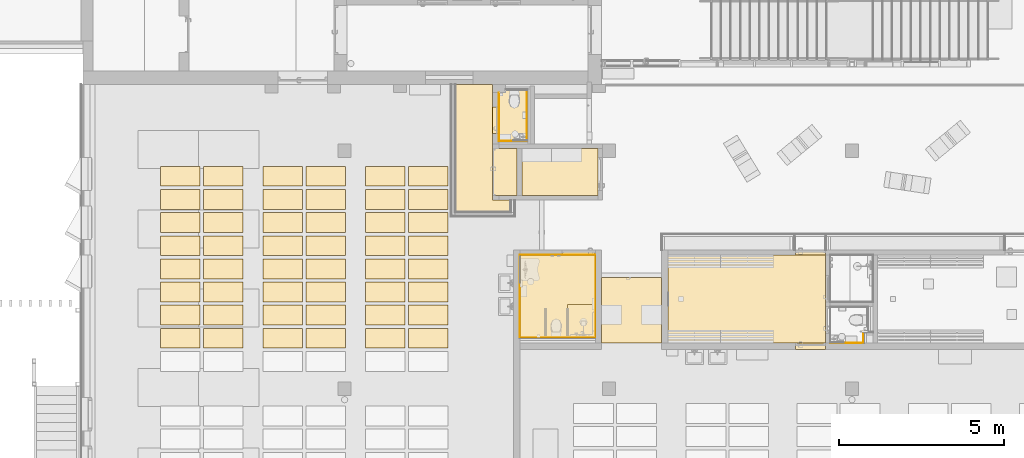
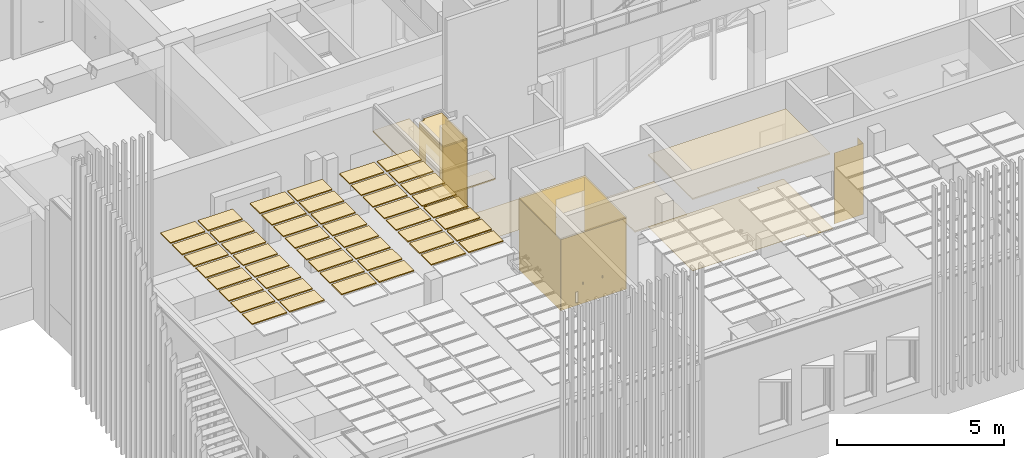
# One storey, part 233 of 301: 68 coverings, 2 openings.
"""IFC2X3 building model written with IfcOpenShell, lengths in millimetres."""

import ifcopenshell
import ifcopenshell.guid

model = None  # the IFC model being written
_history = None  # IfcOwnerHistory: only IFC2X3 demands one
_inside = {}  # id of a spatial element -> (the spatial element, [elements in it])
_under = {}  # id of a project, library or spatial element -> (it, [spatial elements below it])
_declared = {}  # id of a project -> (the project, [libraries it declares])
_typed = {}  # id of a type object -> (the type object, [elements of that type])
_made_of = {}  # id of a material, layer set ... -> (it, [elements and type objects made of it])


def new_model(schema):
    """Start an empty IFC model of exactly this schema.

    Asked for "IFC4X3", IfcOpenShell would pick the latest addendum, in which some entities
    have other attributes; the version numbers below select the first issue.
    IFC2X3 requires an IfcOwnerHistory on every rooted entity: one is made here for all.
    """
    global model, _history
    if schema == "IFC4X3":
        model = ifcopenshell.file(schema_version=(4, 3, 0, 0))
    else:
        model = ifcopenshell.file(schema=schema)
    _inside.clear()
    _under.clear()
    _declared.clear()
    _typed.clear()
    _made_of.clear()
    _history = None
    if model.schema == "IFC2X3":
        org = make("IfcOrganization", Name="unknown")
        user = make(
            "IfcPersonAndOrganization",
            ThePerson=make("IfcPerson", FamilyName="unknown"),
            TheOrganization=org,
        )
        app = make(
            "IfcApplication",
            ApplicationDeveloper=org,
            Version="unknown",
            ApplicationFullName="unknown",
            ApplicationIdentifier="unknown",
        )
        _history = make(
            "IfcOwnerHistory",
            OwningUser=user,
            OwningApplication=app,
            ChangeAction="ADDED",
            CreationDate=0,
        )
    return model


def make(cls, **values):
    """One entity of the class cls with the attributes given. An attribute that is None is left unset."""
    return model.create_entity(
        cls, **{name: value for name, value in values.items() if value is not None}
    )


def entity(cls, *values):
    """Any entity or typed value of the class cls, its attributes in the order of the schema. None: left unset."""
    e = model.create_entity(cls)
    for i, value in enumerate(values):
        if value is not None:
            e[i] = value
    return e


def rooted(cls, **values):
    """An entity with a GlobalId (a new one), such as an element, a storey or a relation."""
    return make(cls, GlobalId=ifcopenshell.guid.new(), OwnerHistory=_history, **values)


def si_unit(unit_type, name, prefix=None):
    """IfcSIUnit, for example si_unit("LENGTHUNIT", "METRE", prefix="MILLI")."""
    return make("IfcSIUnit", UnitType=unit_type, Prefix=prefix, Name=name)


def converted_unit(unit_type, name, factor, base, dimensions=None, offset=None):
    """IfcConversionBasedUnit, such as the inch: factor (a typed value) times the base unit."""
    return make(
        "IfcConversionBasedUnit"
        if offset is None
        else "IfcConversionBasedUnitWithOffset",
        ConversionOffset=offset,
        Dimensions=None
        if dimensions is None
        else entity("IfcDimensionalExponents", *dimensions),
        UnitType=unit_type,
        Name=name,
        ConversionFactor=make(
            "IfcMeasureWithUnit", ValueComponent=factor, UnitComponent=base
        ),
    )


def derived_unit(unit_type, elements):
    """IfcDerivedUnit: a product of units, each with its exponent."""
    return make(
        "IfcDerivedUnit",
        Elements=[
            make("IfcDerivedUnitElement", Unit=unit, Exponent=power)
            for unit, power in elements
        ],
        UnitType=unit_type,
    )


def money_unit(currency):
    """IfcMonetaryUnit."""
    return make("IfcMonetaryUnit", Currency=currency)


def assignment(units):
    """IfcUnitAssignment: the units of a project."""
    return None if units is None else make("IfcUnitAssignment", Units=units)


def point(xyz):
    """IfcCartesianPoint."""
    return None if xyz is None else make("IfcCartesianPoint", Coordinates=xyz)


def direction(xyz):
    """IfcDirection."""
    return None if xyz is None else make("IfcDirection", DirectionRatios=xyz)


def frame(location, z_axis=None, x_axis=None):
    """IfcAxis2Placement3D, a coordinate frame: its origin and axes. An axis left out is left unset."""
    return make(
        "IfcAxis2Placement3D",
        Location=point(location),
        Axis=direction(z_axis),
        RefDirection=direction(x_axis),
    )


def origin_with_axes():
    """The frame at (0, 0, 0) with the z axis (0, 0, 1) and the x axis (1, 0, 0) written out."""
    return frame((0.0, 0.0, 0.0), z_axis=(0.0, 0.0, 1.0), x_axis=(1.0, 0.0, 0.0))


def place(relative_to, where):
    """IfcLocalPlacement: puts the frame where relative to a parent placement (None: the world)."""
    return make(
        "IfcLocalPlacement", PlacementRelTo=relative_to, RelativePlacement=where
    )


def context(
    kind, dimensions, precision=None, world=None, true_north=None, identifier=None
):
    """IfcGeometricRepresentationContext, for example the 3D "Model" context."""
    return make(
        "IfcGeometricRepresentationContext",
        ContextIdentifier=identifier,
        ContextType=kind,
        CoordinateSpaceDimension=dimensions,
        Precision=precision,
        WorldCoordinateSystem=world,
        TrueNorth=true_north,
    )


def subcontext(parent, identifier, kind, view, scale=None):
    """IfcGeometricRepresentationSubContext, for example "Body" below "Model"."""
    return make(
        "IfcGeometricRepresentationSubContext",
        ContextIdentifier=identifier,
        ContextType=kind,
        ParentContext=parent,
        TargetScale=scale,
        TargetView=view,
    )


def project(units=None, contexts=None):
    """IfcProject with its units and contexts."""
    return rooted(
        "IfcProject",
        Name="project",
        RepresentationContexts=contexts,
        UnitsInContext=assignment(units),
    )


def spatial(cls, under=None, at=None, **own):
    """A site, building, storey or space (cls), placed at a placement, below another one or the project."""
    s = rooted(cls, ObjectPlacement=at, **own)
    if under is not None:
        _under.setdefault(under.id(), (under, []))[1].append(s)
    return s


def faces_of(points, faces, orient=None, outer=None):
    """IfcFace entities. A face is a list of loops; a loop is a list of indices into points, from 0.

    orient and outer hold one flag for each loop. By default every Orientation is true, the
    first loop of a face is its IfcFaceOuterBound and the others are IfcFaceBound.
    """
    made = []
    for i, loops in enumerate(faces):
        bounds = []
        for j, loop in enumerate(loops):
            is_outer = j == 0 if outer is None else outer[i][j]
            bounds.append(
                make(
                    "IfcFaceOuterBound" if is_outer else "IfcFaceBound",
                    Bound=make("IfcPolyLoop", Polygon=[points[k] for k in loop]),
                    Orientation=True if orient is None else orient[i][j],
                )
            )
        made.append(make("IfcFace", Bounds=bounds))
    return made


def faceted_brep(points, faces, orient=None, outer=None, voids=None):
    """IfcFacetedBrep: a solid bounded by flat faces; with voids (closed shells), ...WithVoids."""
    shared = [point(p) for p in points]
    hull = make("IfcClosedShell", CfsFaces=faces_of(shared, faces, orient, outer))
    if voids is None:
        return make("IfcFacetedBrep", Outer=hull)
    return make(
        "IfcFacetedBrepWithVoids",
        Outer=hull,
        Voids=[
            make(cls, CfsFaces=faces_of(shared, fs, o, b)) for cls, fs, o, b in voids
        ],
    )


def shape(context_of_items, identifier, shape_type, items):
    """IfcShapeRepresentation: the items that make up one representation, for example the "Body"."""
    return make(
        "IfcShapeRepresentation",
        ContextOfItems=context_of_items,
        RepresentationIdentifier=identifier,
        RepresentationType=shape_type,
        Items=items,
    )


def material(Name=None, Category=None):
    """IfcMaterial."""
    return make("IfcMaterial", Name=Name, Category=Category)


def made_of(thing, what):
    """Note that an element or type object is made of a material, layer set ...; save() writes the relation."""
    if what is not None:
        _made_of.setdefault(what.id(), (what, []))[1].append(thing)
    return thing


def type_object(cls, material=None, **own):
    """A type object (cls), such as IfcWallType, which elements share."""
    return made_of(rooted(cls, **own), material)


def element(
    cls,
    number,
    at=None,
    inside=None,
    cuts=None,
    type_object=None,
    material=None,
    context=None,
    identifier="Body",
    shape_type=None,
    held_by="IfcProductDefinitionShape",
    body=None,
    shapes=None,
    **own,
):
    """One element of the class cls, such as IfcWall. Its Tag is "e" and its number.

    at: its placement. inside: the storey or other place that contains it. cuts: it is an
    opening in that element (IfcRelVoidsElement). A single representation is given by context,
    identifier, shape_type and body (its items); several are given by shapes. held_by: the class
    of the entity that holds the representations. save() writes the other relations.
    """
    e = rooted(cls, Tag="e%d" % number, ObjectPlacement=at, **own)
    if body is not None:
        shapes = [shape(context, identifier, shape_type, body)]
    if shapes is not None:
        e.Representation = make(held_by, Representations=shapes)
    if inside is not None:
        _inside.setdefault(inside.id(), (inside, []))[1].append(e)
    if cuts is not None:
        rooted(
            "IfcRelVoidsElement", RelatingBuildingElement=cuts, RelatedOpeningElement=e
        )
    if type_object is not None:
        _typed.setdefault(type_object.id(), (type_object, []))[1].append(e)
    return made_of(e, material)


def aggregate(whole, parts):
    """IfcRelAggregates: a whole, such as a stair, and the parts it consists of."""
    return rooted("IfcRelAggregates", RelatingObject=whole, RelatedObjects=parts)


def save(model, path):
    """Write the relations noted so far, then the file.

    IfcRelAggregates (storeys below a building ...), IfcRelContainedInSpatialStructure (elements
    in a storey), IfcRelDefinesByType, IfcRelAssociatesMaterial and IfcRelDeclares: one each for
    every whole, place, type object, material and project.
    """
    for whole, parts in _under.values():
        aggregate(whole, parts)
    for where, things in _inside.values():
        rooted(
            "IfcRelContainedInSpatialStructure",
            RelatedElements=things,
            RelatingStructure=where,
        )
    for kind, things in _typed.values():
        rooted("IfcRelDefinesByType", RelatedObjects=things, RelatingType=kind)
    for what, things in _made_of.values():
        rooted("IfcRelAssociatesMaterial", RelatedObjects=things, RelatingMaterial=what)
    for by, libraries in _declared.values():
        rooted("IfcRelDeclares", RelatingContext=by, RelatedDefinitions=libraries)
    model.write(path)


model = new_model("IFC2X3")

# Units and contexts
model_context = context("Model", 3, precision=0.01, world=origin_with_axes(), true_north=direction((0.0, 1.0)))
body_context = subcontext(model_context, "Body", "Model", "MODEL_VIEW")
ifc_project = project(units=[si_unit("LENGTHUNIT", "METRE", prefix="MILLI"), si_unit("AREAUNIT", "SQUARE_METRE"), si_unit("VOLUMEUNIT", "CUBIC_METRE"), converted_unit("PLANEANGLEUNIT", "DEGREE", entity("IfcPlaneAngleMeasure", 0.0174532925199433), si_unit("PLANEANGLEUNIT", "RADIAN"), dimensions=[0, 0, 0, 0, 0, 0, 0]), money_unit("EUR"), converted_unit("TIMEUNIT", "Year", entity("IfcTimeMeasure", 31557600.0), si_unit("TIMEUNIT", "SECOND"), dimensions=[0, 0, 1, 0, 0, 0, 0]), si_unit("MASSUNIT", "GRAM", prefix="KILO"), si_unit("THERMODYNAMICTEMPERATUREUNIT", "DEGREE_CELSIUS"), si_unit("LUMINOUSINTENSITYUNIT", "LUMEN"), si_unit("ENERGYUNIT", "JOULE", prefix="MEGA"), derived_unit("THERMALCONDUCTANCEUNIT", [(si_unit("POWERUNIT", "WATT"), 1), (si_unit("LENGTHUNIT", "METRE"), -1), (si_unit("THERMODYNAMICTEMPERATUREUNIT", "KELVIN"), -1)]), derived_unit("SPECIFICHEATCAPACITYUNIT", [(si_unit("ENERGYUNIT", "JOULE"), 1), (si_unit("MASSUNIT", "GRAM", prefix="KILO"), -1), (si_unit("THERMODYNAMICTEMPERATUREUNIT", "KELVIN"), -1)]), derived_unit("MASSDENSITYUNIT", [(si_unit("MASSUNIT", "GRAM", prefix="KILO"), 1), (si_unit("VOLUMEUNIT", "CUBIC_METRE"), -1)])], contexts=[model_context])

# Site, building, storey
site_placement = place(None, frame((0.0, 0.0, 8650.0), z_axis=(0.0, 0.0, 1.0), x_axis=(1.0, 0.0, 0.0)))
site = spatial("IfcSite", under=ifc_project, at=site_placement, Name="43301:001:0844", CompositionType="ELEMENT")
building_placement = place(site_placement, origin_with_axes())
building = spatial("IfcBuilding", under=site, at=building_placement, Name="Kuressaare Ametikooli tuulikute mehaanikute õppekorpus", CompositionType="ELEMENT")
storey_placement = place(building_placement, origin_with_axes())
storey = spatial("IfcBuildingStorey", under=building, at=storey_placement, Name="1.korrus", CompositionType="ELEMENT", Elevation=0.0)

# Coverings
ifc_material_1 = material(Name="GENEERILINE - KONSTRUKTRIOON")
covering_type_1 = type_object("IfcCoveringType", Name="GENEERILINE - KONSTRUKTRIOON 50", PredefinedType="CEILING")
covering_1_placement = place(storey_placement, frame((105645.5122789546, 17954.7983766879, 2600.0), z_axis=(0.0, 0.0, 1.0), x_axis=(1.0, 0.0, 0.0)))
element("IfcCovering", 1, at=covering_1_placement, inside=storey, type_object=covering_type_1, material=ifc_material_1, Name="RL2", PredefinedType="CEILING", context=body_context, shape_type="Brep", body=[
    faceted_brep([(0.0, 0.0, 49.99999999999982), (0.0, 0.0, 0.0), (4769.999902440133, 0.0, 0.0), (4769.999902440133, 0.0, 49.99999999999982), (0.0, 2670.036032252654, 49.99999999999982), (0.0, 2670.036032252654, 0.0), (4769.999902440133, 2670.036032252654, 0.0), (4769.999902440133, 2670.036032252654, 49.99999999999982)], [[[0, 1, 2, 3]], [[4, 5, 1, 0]], [[2, 1, 5, 6]], [[3, 2, 6, 7]], [[4, 0, 3, 7]], [[7, 6, 5, 4]]]),
])
covering_2_placement = place(storey_placement, frame((101167.9522847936, 18124.79393465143, 2600.0), z_axis=(0.0, 0.0, 1.0), x_axis=(1.0, 0.0, 0.0)))
element("IfcCovering", 2, at=covering_2_placement, inside=storey, type_object=covering_type_1, material=ifc_material_1, Name="RL2", PredefinedType="CEILING", context=body_context, shape_type="Brep", body=[
    faceted_brep([(0.0, 0.0, 49.99999999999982), (0.0, 0.0, 0.0), (2287.559318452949, 0.0, 0.0), (2287.559318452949, 0.0, 49.99999999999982), (0.0, 2499.999743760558, 49.99999999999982), (0.0, 2499.999743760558, 0.0), (2287.559318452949, 2499.999743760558, 0.0), (2287.559318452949, 2499.999743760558, 49.99999999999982)], [[[0, 1, 2, 3]], [[4, 5, 1, 0]], [[2, 1, 5, 6]], [[3, 2, 6, 7]], [[4, 0, 3, 7]], [[7, 6, 5, 4]]]),
])
covering_3_placement = place(storey_placement, frame((100535.6053400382, 24070.48392248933, 2600.0), z_axis=(0.0, 0.0, 1.0), x_axis=(1.0, 0.0, 0.0)))
element("IfcCovering", 3, at=covering_3_placement, inside=storey, type_object=covering_type_1, material=ifc_material_1, Name="RL2", PredefinedType="CEILING", context=body_context, shape_type="Brep", body=[
    faceted_brep([(0.0, 0.0, 49.99999999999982), (0.0, 0.0, 0.0), (848.0493513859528, 0.0, 0.0), (848.0493513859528, 0.0, 49.99999999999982), (0.0, 1462.583499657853, 49.99999999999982), (0.0, 1462.583499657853, 0.0), (200.7111416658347, 1462.583499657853, 0.0), (200.7111416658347, 1537.655486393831, 0.0), (848.0493513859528, 1534.853385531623, 0.0), (848.0493513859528, 1534.853385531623, 49.99999999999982), (200.7111416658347, 1537.655486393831, 49.99999999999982), (200.7111416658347, 1462.583499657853, 49.99999999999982)], [[[0, 1, 2, 3]], [[4, 5, 1, 0]], [[2, 1, 5, 6, 7, 8]], [[3, 2, 8, 9]], [[4, 0, 3, 9, 10, 11]], [[11, 6, 5, 4]], [[10, 7, 6, 11]], [[9, 8, 7, 10]]]),
])
covering_4_placement = place(storey_placement, frame((103645.5118456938, 17954.79795469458, 2100.0), z_axis=(0.0, 0.0, 1.0), x_axis=(1.0, 0.0, 0.0)))
element("IfcCovering", 4, at=covering_4_placement, inside=storey, type_object=covering_type_1, material=ifc_material_1, Name="RL2", PredefinedType="CEILING", context=body_context, shape_type="Brep", body=[
    faceted_brep([(0.0, 0.0, 49.99999999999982), (0.0, 0.0, 0.0), (1810.000454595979, 0.0, 0.0), (1810.000454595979, 0.0, 49.99999999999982), (0.0, 1979.671638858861, 49.99999999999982), (0.0, 1979.671638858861, 0.0), (1810.000454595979, 1979.671638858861, 0.0), (1810.000454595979, 1979.671638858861, 49.99999999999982)], [[[0, 1, 2, 3]], [[4, 5, 1, 0]], [[2, 1, 5, 6]], [[3, 2, 6, 7]], [[4, 0, 3, 7]], [[7, 6, 5, 4]]]),
])
covering_5_placement = place(storey_placement, frame((99086.0631579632, 21782.13829165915, 2640.0), z_axis=(0.0, 0.0, 1.0), x_axis=(1.0, 0.0, 0.0)))
element("IfcCovering", 5, at=covering_5_placement, inside=storey, type_object=covering_type_1, material=ifc_material_1, Name="RL2", PredefinedType="CEILING", context=body_context, shape_type="Brep", body=[
    faceted_brep([(0.0, 0.0, 49.99999999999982), (0.0, 0.0, 0.0), (1946.539572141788, 0.0, 0.0), (1946.539572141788, 0.0, 49.99999999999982), (0.0, 4000.779378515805, 49.99999999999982), (0.0, 4000.779378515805, 0.0), (1258.723737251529, 4000.956785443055, 0.0), (1259.218152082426, 493.0233954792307, 0.0), (1946.539572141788, 492.9445155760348, 0.0), (1946.539572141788, 492.9445155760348, 49.99999999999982), (1259.218152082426, 493.0233954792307, 49.99999999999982), (1258.723737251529, 4000.956785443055, 49.99999999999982)], [[[0, 1, 2, 3]], [[4, 5, 1, 0]], [[2, 1, 5, 6, 7, 8]], [[3, 2, 8, 9]], [[4, 0, 3, 9, 10, 11]], [[11, 6, 5, 4]], [[10, 7, 6, 11]], [[9, 8, 7, 10]]]),
])
covering_type_2 = type_object("IfcCoveringType", Name="GENEERILINE - KONSTRUKTRIOON 40", PredefinedType="CEILING")
for number, where, z_axis, x_axis, name in (
    (6, (95899.99999999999, 19799.04687498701, 3530.0), (0.0, 0.0, 1.0), (1.0, 0.0, 0.0), "RL3"),
    (7, (95899.99999999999, 20499.04687498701, 3530.0), (0.0, 0.0, 1.0), (1.0, 0.0, 0.0), "RL3"),
    (8, (95899.99999999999, 19099.046874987, 3530.0), (0.0, 0.0, 1.0), (1.0, 0.0, 0.0), "RL3"),
    (9, (95899.99999999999, 21199.04687498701, 3530.0), (0.0, 0.0, 1.0), (1.0, 0.0, 0.0), "RL3"),
    (10, (94600.0, 20499.04687498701, 3530.0), (0.0, 0.0, 1.0), (1.0, 0.0, 0.0), "RL3"),
    (11, (94600.0, 19799.04687498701, 3530.0), (0.0, 0.0, 1.0), (1.0, 0.0, 0.0), "RL3"),
    (12, (94600.0, 19099.046874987, 3530.0), (0.0, 0.0, 1.0), (1.0, 0.0, 0.0), "RL3"),
    (13, (94600.0, 21199.04687498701, 3530.0), (0.0, 0.0, 1.0), (1.0, 0.0, 0.0), "RL3"),
    (14, (95899.99999999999, 18399.046874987, 3530.0), (0.0, 0.0, 1.0), (1.0, 0.0, 0.0), "RL3"),
    (15, (94600.0, 18399.046874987, 3530.0), (0.0, 0.0, 1.0), (1.0, 0.0, 0.0), "RL3"),
    (16, (95899.99999999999, 22599.04687498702, 3530.0), (0.0, 0.0, 1.0), (1.0, 0.0, 0.0), "RL3"),
    (17, (94600.0, 21899.04687498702, 3530.0), (0.0, 0.0, 1.0), (1.0, 0.0, 0.0), "RL3"),
    (18, (94600.0, 22599.04687498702, 3530.0), (0.0, 0.0, 1.0), (1.0, 0.0, 0.0), "RL3"),
    (19, (95899.99999999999, 23299.04687498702, 3530.0), (0.0, 0.0, 1.0), (1.0, 0.0, 0.0), "RL3"),
    (20, (95899.99999999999, 21899.04687498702, 3530.0), (0.0, 0.0, 1.0), (1.0, 0.0, 0.0), "RL3"),
    (21, (94600.0, 23299.04687498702, 3530.0), (0.0, 0.0, 1.0), (1.0, 0.0, 0.0), "RL3"),
    (22, (92799.99999999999, 20499.04687498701, 3530.0), (0.0, 0.0, 1.0), (1.0, 0.0, 0.0), "RL3"),
    (23, (92799.99999999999, 19799.04687498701, 3530.0), (0.0, 0.0, 1.0), (1.0, 0.0, 0.0), "RL3"),
    (24, (92799.99999999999, 19099.046874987, 3530.0), (0.0, 0.0, 1.0), (1.0, 0.0, 0.0), "RL3"),
    (25, (92799.99999999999, 21199.04687498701, 3530.0), (0.0, 0.0, 1.0), (1.0, 0.0, 0.0), "RL3"),
    (26, (91499.99999999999, 20499.04687498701, 3530.0), (0.0, 0.0, 1.0), (1.0, 0.0, 0.0), "RL3"),
    (27, (91499.99999999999, 19799.04687498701, 3530.0), (0.0, 0.0, 1.0), (1.0, 0.0, 0.0), "RL3"),
    (28, (91499.99999999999, 21199.04687498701, 3530.0), (0.0, 0.0, 1.0), (1.0, 0.0, 0.0), "RL3"),
    (29, (92799.99999999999, 18399.046874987, 3530.0), (0.0, 0.0, 1.0), (1.0, 0.0, 0.0), "RL3"),
    (30, (91499.99999999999, 18399.046874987, 3530.0), (0.0, 0.0, 1.0), (1.0, 0.0, 0.0), "RL3"),
    (31, (92799.99999999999, 21899.04687498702, 3530.0), (0.0, 0.0, 1.0), (1.0, 0.0, 0.0), "RL3"),
    (32, (92799.99999999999, 22599.04687498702, 3530.0), (0.0, 0.0, 1.0), (1.0, 0.0, 0.0), "RL3"),
    (33, (91499.99999999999, 21899.04687498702, 3530.0), (0.0, 0.0, 1.0), (1.0, 0.0, 0.0), "RL3"),
    (34, (91499.99999999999, 22599.04687498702, 3530.0), (0.0, 0.0, 1.0), (1.0, 0.0, 0.0), "RL3"),
    (35, (92799.99999999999, 23299.04687498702, 3530.0), (0.0, 0.0, 1.0), (1.0, 0.0, 0.0), "RL3"),
    (36, (91499.99999999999, 23299.04687498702, 3530.0), (0.0, 0.0, 1.0), (1.0, 0.0, 0.0), "RL3"),
    (37, (91499.99999999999, 19099.046874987, 3530.0), (0.0, 0.0, 1.0), (1.0, 0.0, 0.0), "RL3"),
    (38, (98999.99999999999, 20499.04687498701, 3530.0), (0.0, 0.0, 1.0), (1.0, 0.0, 0.0), "RL3"),
    (39, (98999.99999999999, 19799.04687498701, 3530.0), (0.0, 0.0, 1.0), (1.0, 0.0, 0.0), "RL3"),
    (40, (98999.99999999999, 19099.046874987, 3530.0), (0.0, 0.0, 1.0), (1.0, 0.0, 0.0), "RL3"),
    (41, (98999.99999999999, 21199.04687498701, 3530.0), (0.0, 0.0, 1.0), (1.0, 0.0, 0.0), "RL3"),
    (42, (97699.99999999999, 20499.04687498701, 3530.0), (0.0, 0.0, 1.0), (1.0, 0.0, 0.0), "RL3"),
    (43, (97699.99999999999, 19799.04687498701, 3530.0), (0.0, 0.0, 1.0), (1.0, 0.0, 0.0), "RL3"),
    (44, (97699.99999999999, 19099.046874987, 3530.0), (0.0, 0.0, 1.0), (1.0, 0.0, 0.0), "RL3"),
    (45, (97699.99999999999, 21199.04687498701, 3530.0), (0.0, 0.0, 1.0), (1.0, 0.0, 0.0), "RL3"),
    (46, (98999.99999999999, 18399.046874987, 3530.0), (0.0, 0.0, 1.0), (1.0, 0.0, 0.0), "RL3"),
    (47, (97699.99999999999, 18399.046874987, 3530.0), (0.0, 0.0, 1.0), (1.0, 0.0, 0.0), "RL3"),
    (48, (98999.99999999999, 21899.04687498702, 3530.0), (0.0, 0.0, 1.0), (1.0, 0.0, 0.0), "RL3"),
    (49, (98999.99999999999, 22599.04687498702, 3530.0), (0.0, 0.0, 1.0), (1.0, 0.0, 0.0), "RL3"),
    (50, (97699.99999999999, 21899.04687498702, 3530.0), (0.0, 0.0, 1.0), (1.0, 0.0, 0.0), "RL3"),
    (51, (97699.99999999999, 22599.04687498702, 3530.0), (0.0, 0.0, 1.0), (1.0, 0.0, 0.0), "RL3"),
    (52, (98999.99999999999, 23299.04687498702, 3530.0), (0.0, 0.0, 1.0), (1.0, 0.0, 0.0), "RL3"),
    (53, (97699.99999999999, 23299.04687498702, 3530.0), (0.0, 0.0, 1.0), (1.0, 0.0, 0.0), "RL3"),
):
    element("IfcCovering", number, at=place(storey_placement, frame(where, z_axis=z_axis, x_axis=x_axis)), inside=storey, type_object=covering_type_2, material=ifc_material_1, Name=name, PredefinedType="CEILING", context=body_context, shape_type="Brep", body=[
        faceted_brep([(0.0, 0.0, 0.0), (0.0, 0.0, -40.00000000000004), (-1200.000000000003, 0.0, -40.00000000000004), (-1200.000000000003, 0.0, 0.0), (0.0, -599.9999999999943, 0.0), (0.0, -599.9999999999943, -40.00000000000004), (-1200.000000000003, -599.9999999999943, -40.00000000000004), (-1200.000000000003, -599.9999999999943, 0.0)], [[[0, 1, 2, 3]], [[4, 5, 1, 0]], [[2, 1, 5, 6]], [[3, 2, 6, 7]], [[4, 0, 3, 7]], [[7, 6, 5, 4]]]),
    ])
ifc_material_2 = material(Name="SA_viimistluskiht")
covering_type_3 = type_object("IfcCoveringType", Name="SA_viimistluskiht 10", PredefinedType="CLADDING")
covering_6_placement = place(storey_placement, frame((111565.5110335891, 17954.8360168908, 0.0), z_axis=(0.0, 0.0, 1.0), x_axis=(-0.99999999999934, 1.148925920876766e-06, 0.0)))
element("IfcCovering", 54, at=covering_6_placement, inside=storey, type_object=covering_type_3, material=ifc_material_2, Name="S3", PredefinedType="CLADDING", context=body_context, shape_type="Brep", body=[
    faceted_brep([(1009.998432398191, 0.0, 0.0), (1009.998446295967, -9.999999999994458, 0.0), (-0.0002692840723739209, -9.99999999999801, 0.0), (-0.0002774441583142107, 0.0, 0.0), (1009.998432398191, 0.0, 2600.0), (1009.998446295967, -9.999999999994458, 2600.0), (-0.0002692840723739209, -9.99999999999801, 2600.0), (-0.0002774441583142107, 0.0, 2600.0)], [[[0, 1, 2, 3]], [[1, 0, 4, 5]], [[1, 5, 6, 2]], [[7, 3, 2, 6]], [[4, 0, 3, 7]], [[5, 4, 7, 6]]]),
])
covering_7_placement = place(storey_placement, frame((101167.9522847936, 18124.79388886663, 0.0), z_axis=(0.0, 0.0, 1.0), x_axis=(0.9999999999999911, -1.33972742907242e-07, 0.0)))
element("IfcCovering", 55, at=covering_7_placement, inside=storey, type_object=covering_type_3, material=ifc_material_2, Name="S3", PredefinedType="CLADDING", context=body_context, shape_type="Brep", body=[
    faceted_brep([(10.00000000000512, 0.0, 0.0), (2277.559318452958, 0.0, 0.0), (2277.559318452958, 0.0, 2600.0), (10.00000000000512, 0.0, 2600.0), (800.000000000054, 0.0, 690.0), (770.0000000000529, 0.0, 690.0), (770.0000000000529, 0.0, 790.0), (800.000000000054, 0.0, 790.0), (1473.779659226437, 0.0, 690.0), (1443.779659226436, 0.0, 690.0), (1443.779659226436, 0.0, 790.0), (1473.779659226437, 0.0, 790.0), (523.0966415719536, 0.0001158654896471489, 100.0000000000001), (523.0966415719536, 0.0001158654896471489, 500.0), (612.0966415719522, 0.000127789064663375, 500.0), (612.0966415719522, 0.000127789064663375, 100.0000000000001), (10.00000002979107, 9.99999999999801, 0.0), (2277.55931711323, 9.99999999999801, 0.0), (2277.55931711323, 9.99999999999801, 2600.0), (10.00000002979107, 9.99999999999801, 2600.0), (799.9999986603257, 9.99999999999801, 690.0), (769.9999986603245, 10.00000000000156, 690.0), (769.9999986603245, 10.00000000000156, 790.0), (799.9999986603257, 9.99999999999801, 790.0), (1473.779660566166, 9.99999999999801, 690.0), (1443.779660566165, 10.00000000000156, 690.0), (1443.779660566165, 10.00000000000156, 790.0), (1473.779660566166, 9.99999999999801, 790.0), (523.0966402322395, 9.99999999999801, 100.0000000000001), (523.0966402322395, 9.99999999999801, 500.0), (612.0966402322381, 10.00000000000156, 500.0), (612.0966402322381, 10.00000000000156, 100.0000000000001)], [[[0, 1, 2, 3], [4, 5, 6, 7], [8, 9, 10, 11], [12, 13, 14, 15]], [[16, 17, 1, 0]], [[1, 17, 18, 2]], [[3, 2, 18, 19]], [[0, 3, 19, 16]], [[4, 20, 21, 5]], [[5, 21, 22, 6]], [[6, 22, 23, 7]], [[7, 23, 20, 4]], [[8, 24, 25, 9]], [[9, 25, 26, 10]], [[10, 26, 27, 11]], [[11, 27, 24, 8]], [[28, 29, 13, 12]], [[29, 30, 14, 13]], [[30, 31, 15, 14]], [[31, 28, 12, 15]], [[19, 18, 17, 16], [22, 21, 20, 23], [26, 25, 24, 27], [28, 31, 30, 29]]]),
])
covering_8_placement = place(storey_placement, frame((101167.9522847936, 18124.79388886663, 0.0), z_axis=(0.0, 0.0, 1.0), x_axis=(1.369511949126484e-07, 0.9999999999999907, 0.0)))
element("IfcCovering", 56, at=covering_8_placement, inside=storey, type_object=covering_type_3, material=ifc_material_2, Name="S3", PredefinedType="CLADDING", context=body_context, shape_type="Brep", body=[
    faceted_brep([(2490.000000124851, -10.00000000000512, 0.0), (2490.000000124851, -10.00000000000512, 2600.0), (2.97823987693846e-08, -10.00000000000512, 2600.0), (2.97823987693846e-08, -10.00000000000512, 0.0), (2490.000000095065, -2.98143731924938e-08, 2600.0), (2490.000000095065, -2.98143731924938e-08, 0.0), (0.0, 0.0, 2600.0), (0.0, 0.0, 0.0)], [[[0, 1, 2, 3]], [[4, 1, 0, 5]], [[1, 4, 6, 2]], [[3, 2, 6, 7]], [[5, 0, 3, 7]], [[4, 5, 7, 6]]]),
])
covering_9_placement = place(storey_placement, frame((103455.5116032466, 18124.79358239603, 0.0), z_axis=(0.0, 0.0, 1.0), x_axis=(7.777395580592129e-08, 0.999999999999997, 0.0)))
element("IfcCovering", 57, at=covering_9_placement, inside=storey, type_object=covering_type_3, material=ifc_material_2, Name="S3", PredefinedType="CLADDING", context=body_context, shape_type="Brep", body=[
    faceted_brep([(2490.000000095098, 5.619682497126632e-07, 0.0), (2490.000000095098, 5.619682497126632e-07, 2600.0), (0.0, 0.0, 2600.0), (0.0, 0.0, 0.0), (2490.000000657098, 10.00019365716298, 2600.0), (2490.000000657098, 10.00019365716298, 0.0), (5.619860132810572e-07, 10.00000000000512, 2600.0), (5.619860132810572e-07, 10.00000000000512, 0.0)], [[[0, 1, 2, 3]], [[4, 1, 0, 5]], [[1, 4, 6, 2]], [[3, 2, 6, 7]], [[5, 0, 3, 7]], [[4, 5, 7, 6]]]),
])

# Covering, opening
covering_10_placement = place(storey_placement, frame((103455.5117976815, 20624.79358249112, 0.0), z_axis=(0.0, 0.0, 1.0), x_axis=(-0.9999999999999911, 1.339727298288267e-07, 0.0)))
covering_10 = element("IfcCovering", 58, at=covering_10_placement, inside=storey, type_object=covering_type_3, material=ifc_material_2, Name="S3", PredefinedType="CLADDING", context=body_context, shape_type="Brep", body=[
    faceted_brep([(-0.0001404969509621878, 10.00000000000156, 2110.0), (-0.0001404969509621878, 0.0, 2110.0), (0.0, 0.0, 2600.0), (0.0, 10.00000000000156, 2600.0), (1009.999859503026, 0.0, 2110.0), (1009.999859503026, 10.00000000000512, 2110.0), (1009.999859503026, 0.0, 0.0), (2287.55917050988, 0.0002105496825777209, 0.0), (2287.55917050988, 0.0002105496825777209, 2600.0), (2287.55917050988, 10.00000000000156, 2600.0), (2287.55917050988, 10.00000000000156, 0.0), (1009.999859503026, 10.00000000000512, 0.0), (1156.641349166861, 10.00000000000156, 1190.0), (1066.641349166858, 10.00000000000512, 1190.0), (1066.641349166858, 10.00000000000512, 1140.0), (1156.641349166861, 10.00000000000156, 1140.0), (1356.64134916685, 10.00000000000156, 1190.0), (1266.641349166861, 10.00000000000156, 1190.0), (1266.641349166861, 10.00000000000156, 1140.0), (1356.64134916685, 10.00000000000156, 1140.0), (1156.641349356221, 8.586505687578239, 1190.0), (1066.641349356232, 8.586493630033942, 1190.0), (1066.641349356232, 8.586493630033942, 1140.0), (1156.641349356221, 8.586505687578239, 1140.0), (1356.64134935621, 8.586532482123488, 1190.0), (1266.64134935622, 8.586520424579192, 1190.0), (1266.64134935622, 8.586520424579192, 1140.0), (1356.64134935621, 8.586532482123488, 1140.0)], [[[0, 1, 2, 3]], [[4, 1, 0, 5]], [[4, 6, 7, 8, 2, 1]], [[2, 8, 9, 3]], [[5, 0, 3, 9, 10, 11], [12, 13, 14, 15], [16, 17, 18, 19]], [[6, 4, 5, 11]], [[6, 11, 10, 7]], [[10, 9, 8, 7]], [[12, 20, 21, 13]], [[13, 21, 22, 14]], [[14, 22, 23, 15]], [[15, 23, 20, 12]], [[16, 24, 25, 17]], [[17, 25, 26, 18]], [[18, 26, 27, 19]], [[19, 27, 24, 16]], [[21, 20, 23, 22]], [[25, 24, 27, 26]]]),
])
opening_1_placement = place(covering_10_placement, frame((504.9998595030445, 0.0, 0.0), z_axis=(0.0, 0.0, 1.0), x_axis=(1.0, 0.0, 0.0)))
element("IfcOpeningElement", 59, at=opening_1_placement, cuts=covering_10, Name="ava", context=body_context, shape_type="Brep", body=[
    faceted_brep([(504.9999999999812, 0.0, 2110.0), (-504.9999999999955, 0.0, 2110.0), (-504.9999999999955, -1.000306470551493, 2110.0), (504.9999999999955, -1.00030647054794, 2110.0), (504.9999999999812, 11.0003064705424, 2110.0), (-504.9999999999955, 11.00030647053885, 2110.0), (-504.9999999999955, 0.0, 0.0), (-504.9999999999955, -1.000306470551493, 0.0), (504.9999999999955, -1.00030647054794, 0.0), (504.9999999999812, 0.0, 0.0), (504.9999999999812, 11.0003064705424, 0.0), (-504.9999999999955, 11.00030647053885, 0.0)], [[[0, 1, 2, 3]], [[1, 0, 4, 5]], [[1, 6, 7, 2]], [[7, 8, 3, 2]], [[9, 0, 3, 8]], [[0, 9, 10, 4]], [[4, 10, 11, 5]], [[6, 1, 5, 11]], [[6, 9, 8, 7]], [[9, 6, 11, 10]]]),
])

covering_11_placement = place(storey_placement, frame((100535.3922318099, 24066.07067519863, 0.0), z_axis=(0.0, 0.0, 1.0), x_axis=(0.0001147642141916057, 0.9999999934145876, 0.0)))
covering_11 = element("IfcCovering", 60, at=covering_11_placement, inside=storey, type_object=covering_type_3, material=ifc_material_2, Name="S3", PredefinedType="CLADDING", context=body_context, shape_type="Brep", body=[
    faceted_brep([(226.9674206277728, -10.00000000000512, 0.0), (226.9674206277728, -10.00000000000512, 2110.0), (1036.967420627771, -10.00000000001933, 2110.0), (1036.967420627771, -10.00000000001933, 0.0), (1466.985677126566, -10.00000000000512, 0.0), (1466.985677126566, -10.00000000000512, 2600.0), (10.00113554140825, -10.00000000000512, 2600.0), (10.00113554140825, -10.00000000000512, 0.0), (226.9674206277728, 0.0, 0.0), (226.9674206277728, 0.0, 2110.0), (1036.967420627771, 0.0, 2110.0), (1036.967420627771, 0.0, 0.0), (1466.983888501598, 0.0, 0.0), (1466.983888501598, 0.0, 2600.0), (9.99999993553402, 0.001135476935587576, 2600.0), (9.99999993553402, 0.001135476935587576, 0.0)], [[[0, 1, 2, 3, 4, 5, 6, 7]], [[1, 0, 8, 9]], [[2, 1, 9, 10]], [[3, 2, 10, 11]], [[3, 11, 12, 4]], [[5, 4, 12, 13]], [[6, 5, 13, 14]], [[6, 14, 15, 7]], [[8, 0, 7, 15]], [[9, 8, 15, 14, 13, 12, 11, 10]]]),
])
opening_2_placement = place(covering_11_placement, frame((631.9674206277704, 0.0, 0.0), z_axis=(0.0, 0.0, 1.0), x_axis=(1.0, 0.0, 0.0)))
element("IfcOpeningElement", 61, at=opening_2_placement, cuts=covering_11, Name="ava", context=body_context, shape_type="Brep", body=[
    faceted_brep([(-404.9999999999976, 0.0, 2110.0), (405.0000000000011, 0.0, 2110.0), (405.0000000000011, 1.168356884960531, 2110.0), (-405.0000000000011, 1.168356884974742, 2110.0), (-404.9999999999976, -11.16835688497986, 2110.0), (405.0000000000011, -11.16835688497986, 2110.0), (405.0000000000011, 0.0, 0.0), (405.0000000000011, 1.168356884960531, 0.0), (-405.0000000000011, 1.168356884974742, 0.0), (-404.9999999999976, 0.0, 0.0), (-404.9999999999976, -11.16835688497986, 0.0), (405.0000000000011, -11.16835688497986, 0.0)], [[[0, 1, 2, 3]], [[1, 0, 4, 5]], [[1, 6, 7, 2]], [[7, 8, 3, 2]], [[9, 0, 3, 8]], [[0, 9, 10, 4]], [[4, 10, 11, 5]], [[6, 1, 5, 11]], [[6, 9, 8, 7]], [[9, 6, 11, 10]]]),
])

# Coverings
covering_12_placement = place(storey_placement, frame((101383.6550044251, 24066.06964326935, 0.0), z_axis=(0.0, 0.0, 1.0), x_axis=(-0.99999999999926, 1.216520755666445e-06, 0.0)))
element("IfcCovering", 62, at=covering_12_placement, inside=storey, type_object=covering_type_3, material=ifc_material_2, Name="S3", PredefinedType="CLADDING", context=body_context, shape_type="Brep", body=[
    faceted_brep([(0.0003130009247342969, 0.0, 2600.0), (0.0003251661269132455, -9.99999999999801, 2600.0), (848.2627726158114, -9.99999999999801, 2600.0), (848.2627726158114, 0.0, 2600.0), (0.0003251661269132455, -9.99999999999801, 0.0), (0.0003130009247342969, 0.0, 0.0), (848.2627726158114, -9.99999999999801, 0.0), (848.2627726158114, 0.0, 0.0)], [[[0, 1, 2, 3]], [[4, 1, 0, 5]], [[1, 4, 6, 2]], [[2, 6, 7, 3]], [[5, 0, 3, 7]], [[4, 5, 7, 6]]]),
])
covering_13_placement = place(storey_placement, frame((101383.6546914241, 25608.13940888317, 0.0), z_axis=(0.0, 0.0, 1.0), x_axis=(2.029745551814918e-07, -0.9999999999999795, 0.0)))
element("IfcCovering", 63, at=covering_13_placement, inside=storey, type_object=covering_type_3, material=ifc_material_2, Name="S3", PredefinedType="CLADDING", context=body_context, shape_type="Brep", body=[
    faceted_brep([(1532.069751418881, -10.00000000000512, 2600.0), (1532.069765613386, -0.0003130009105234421, 2600.0), (10.00000000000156, -2.029736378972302e-06, 2600.000000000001), (10.00000162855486, -10.00000000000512, 2600.000000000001), (1532.069765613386, -0.0003130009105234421, 0.0), (1532.069751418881, -10.00000000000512, 0.0), (10.00000000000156, -2.029736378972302e-06, 0.0), (10.00000162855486, -10.00000000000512, 0.0)], [[[0, 1, 2, 3]], [[4, 1, 0, 5]], [[1, 4, 6, 2]], [[3, 2, 6, 7]], [[5, 0, 3, 7]], [[4, 5, 7, 6]]]),
])
covering_14_placement = place(storey_placement, frame((111565.5114242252, 18294.83712413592, 0.0), z_axis=(0.0, 0.0, 1.0), x_axis=(-3.329163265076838e-07, -0.9999999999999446, 0.0)))
element("IfcCovering", 64, at=covering_14_placement, inside=storey, type_object=covering_type_3, material=ifc_material_2, Name="S3", PredefinedType="CLADDING", context=body_context, shape_type="Brep", body=[
    faceted_brep([(0.0, 0.0, 0.0), (0.0, 0.0, 2600.0), (330.0011072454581, 0.0, 2600.0), (330.0011072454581, 0.0, 0.0), (3.329166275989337e-06, -10.00000000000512, 2600.0), (3.329166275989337e-06, -10.00000000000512, 0.0), (330.0010990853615, -10.00000000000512, 2600.0), (330.0010990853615, -10.00000000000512, 0.0)], [[[0, 1, 2, 3]], [[4, 1, 0, 5]], [[1, 4, 6, 2]], [[3, 2, 6, 7]], [[5, 0, 3, 7]], [[4, 5, 7, 6]]]),
])
covering_type_4 = type_object("IfcCoveringType", Name="GENEERILINE - KONSTRUKTRIOON 3", PredefinedType="FLOORING")
covering_15_placement = place(storey_placement, frame((101228.1615931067, 22415.06036493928, 0.0), z_axis=(0.0, 0.0, 1.0), x_axis=(1.0, 0.0, 0.0)))
element("IfcCovering", 65, at=covering_15_placement, inside=storey, type_object=covering_type_4, material=ifc_material_1, Name="P9", PredefinedType="FLOORING", context=body_context, shape_type="Brep", body=[
    faceted_brep([(0.0, 0.0, 0.0), (0.0, 0.0, -3.0), (2299.78685488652, 0.0, -3.0), (2299.78685488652, 0.0, 0.0), (0.0, 1419.026456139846, 0.0), (0.0, 1419.026456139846, -3.0), (2299.78685488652, 1419.026456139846, -3.0), (2299.78685488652, 1419.026456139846, 0.0)], [[[0, 1, 2, 3]], [[4, 5, 1, 0]], [[2, 1, 5, 6]], [[3, 2, 6, 7]], [[4, 0, 3, 7]], [[7, 6, 5, 4]]]),
])
covering_16_placement = place(storey_placement, frame((101088.1615931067, 23834.06964326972, 0.0), z_axis=(0.0, 0.0, 1.0), x_axis=(1.0, 0.0, 0.0)))
element("IfcCovering", 66, at=covering_16_placement, inside=storey, type_object=covering_type_4, material=ifc_material_1, Name="P8", PredefinedType="FLOORING", context=body_context, shape_type="Brep", body=[
    faceted_brep([(0.0, 0.0, 3.0), (0.0, 0.0, 0.0), (-742.7018760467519, 0.08523559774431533, 0.0), (-742.7018760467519, 0.08523559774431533, 3.0), (0.0, -1418.993211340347, 3.0), (0.0, -1418.993211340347, 0.0), (-742.8647256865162, -1418.907957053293, 0.0), (-742.8647256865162, -1418.907957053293, 3.0)], [[[0, 1, 2, 3]], [[4, 5, 1, 0]], [[2, 1, 5, 6]], [[3, 2, 6, 7]], [[4, 0, 3, 7]], [[7, 6, 5, 4]]]),
])
covering_type_5 = type_object("IfcCoveringType", Name="GENEERILINE - KONSTRUKTRIOON 10", PredefinedType="FLOORING")
covering_17_placement = place(storey_placement, frame((102445.5119368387, 20764.79373342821, 0.0), z_axis=(0.0, 0.0, 1.0), x_axis=(1.0, 0.0, 0.0)))
element("IfcCovering", 67, at=covering_17_placement, inside=storey, type_object=covering_type_5, material=ifc_material_1, Name="P3a", PredefinedType="FLOORING", context=body_context, shape_type="Brep", body=[
    faceted_brep([(0.0, 0.0, 0.0), (0.0, 0.0, -10.0), (0.0, -150.0000156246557, -10.0), (0.0, -150.0000156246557, 0.0), (999.9996672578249, 5.327172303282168e-05, 0.0), (999.9996672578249, 5.327172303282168e-05, -10.0), (999.9996672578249, -1650.406171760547, -10.0), (166.2203049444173, -1650.406147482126, -10.0), (166.2202764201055, -2630.000055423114, -10.0), (-1267.55965067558, -2629.999845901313, -10.0), (-1267.559266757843, -149.9998928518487, -10.0), (-1267.559266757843, -149.9998928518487, 0.0), (-1267.55965067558, -2629.999845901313, 0.0), (166.2202764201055, -2630.000055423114, 0.0), (166.2203049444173, -1650.406147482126, 0.0), (999.9996672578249, -1650.406171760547, 0.0)], [[[0, 1, 2, 3]], [[4, 5, 1, 0]], [[2, 1, 5, 6, 7, 8, 9, 10]], [[3, 2, 10, 11]], [[4, 0, 3, 11, 12, 13, 14, 15]], [[15, 6, 5, 4]], [[14, 7, 6, 15]], [[13, 8, 7, 14]], [[12, 9, 8, 13]], [[11, 10, 9, 12]]]),
])
covering_18_placement = place(storey_placement, frame((103445.5116040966, 19114.38745065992, 0.0), z_axis=(0.0, 0.0, 1.0), x_axis=(1.0, 0.0, 0.0)))
element("IfcCovering", 68, at=covering_18_placement, inside=storey, type_object=covering_type_5, material=ifc_material_1, Name="P3a", PredefinedType="FLOORING", context=body_context, shape_type="Brep", body=[
    faceted_brep([(0.0, 0.0, 0.0), (0.0, 0.0, -10.0), (-833.7794930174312, 0.0001352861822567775, -10.0), (-833.7794930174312, 0.0001352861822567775, 0.0), (0.0, -979.5938064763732, 0.0), (0.0, -979.5938064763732, -10.0), (-833.7793908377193, -979.5937726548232, -10.0), (-833.7793908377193, -979.5937726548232, 0.0)], [[[0, 1, 2, 3]], [[4, 5, 1, 0]], [[2, 1, 5, 6]], [[3, 2, 6, 7]], [[4, 0, 3, 7]], [[7, 6, 5, 4]]]),
])
covering_19_placement = place(storey_placement, frame((100495.5123445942, 24076.07066370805, 0.0), z_axis=(0.0, 0.0, 1.0), x_axis=(1.0, 0.0, 0.0)))
element("IfcCovering", 69, at=covering_19_placement, inside=storey, type_object=covering_type_5, material=ifc_material_1, Name="P3a", PredefinedType="FLOORING", context=body_context, shape_type="Brep", body=[
    faceted_brep([(0.0, 0.0, 0.0), (0.0, 0.0, -10.0), (878.1426401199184, 0.0, -10.0), (878.1426401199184, 0.0, 0.0), (1.281279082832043e-05, 216.9834896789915, 0.0), (1.281279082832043e-05, 216.9834896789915, -10.0), (-149.9999623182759, 216.9834985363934, -10.0), (-150.0000492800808, 1026.96627764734, -10.0), (0.09299570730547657, 1026.96627764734, -10.0), (0.09299570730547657, 1446.997399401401, -10.0), (250.8041371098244, 1446.997399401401, -10.0), (250.8041371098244, 1522.068741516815, -10.0), (878.1426401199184, 1522.068741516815, -10.0), (878.1426401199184, 1522.068741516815, 0.0), (250.8041371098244, 1522.068741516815, 0.0), (250.8041371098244, 1446.997399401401, 0.0), (0.09299570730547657, 1446.997399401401, 0.0), (0.09299570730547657, 1026.96627764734, 0.0), (-150.0000492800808, 1026.96627764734, 0.0), (-149.9999623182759, 216.9834985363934, 0.0)], [[[0, 1, 2, 3]], [[4, 5, 1, 0]], [[2, 1, 5, 6, 7, 8, 9, 10, 11, 12]], [[3, 2, 12, 13]], [[4, 0, 3, 13, 14, 15, 16, 17, 18, 19]], [[19, 6, 5, 4]], [[18, 7, 6, 19]], [[17, 8, 7, 18]], [[16, 9, 8, 17]], [[15, 10, 9, 16]], [[14, 11, 10, 15]], [[13, 12, 11, 14]]]),
])
covering_20_placement = place(storey_placement, frame((105645.5123002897, 17954.7983766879, 0.0), z_axis=(0.0, 0.0, 1.0), x_axis=(1.0, 0.0, 0.0)))
element("IfcCovering", 70, at=covering_20_placement, inside=storey, type_object=covering_type_5, material=ifc_material_1, Name="P3a", PredefinedType="FLOORING", context=body_context, shape_type="Brep", body=[
    faceted_brep([(0.0, 0.0, 0.0), (0.0, 0.0, -10.0), (3859.999926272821, 0.008573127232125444, -10.0), (3859.999926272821, 0.008573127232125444, 0.0), (-0.0003350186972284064, 2670.037342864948, 0.0), (-0.0003350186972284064, 2670.037342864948, -10.0), (3859.999657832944, 2670.037871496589, -10.0), (3859.999638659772, 2810.037871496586, -10.0), (4769.999624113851, 2810.037996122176, -10.0), (4770.000346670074, -189.9894057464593, -10.0), (3860.005885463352, -190.0179429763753, -10.0), (3860.005885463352, -190.0179429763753, 0.0), (4770.000346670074, -189.9894057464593, 0.0), (4769.999624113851, 2810.037996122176, 0.0), (3859.999638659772, 2810.037871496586, 0.0), (3859.999657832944, 2670.037871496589, 0.0)], [[[0, 1, 2, 3]], [[4, 5, 1, 0]], [[2, 1, 5, 6, 7, 8, 9, 10]], [[3, 2, 10, 11]], [[4, 0, 3, 11, 12, 13, 14, 15]], [[15, 6, 5, 4]], [[14, 7, 6, 15]], [[13, 8, 7, 14]], [[12, 9, 8, 13]], [[11, 10, 9, 12]]]),
])

save(model, "model.ifc")
